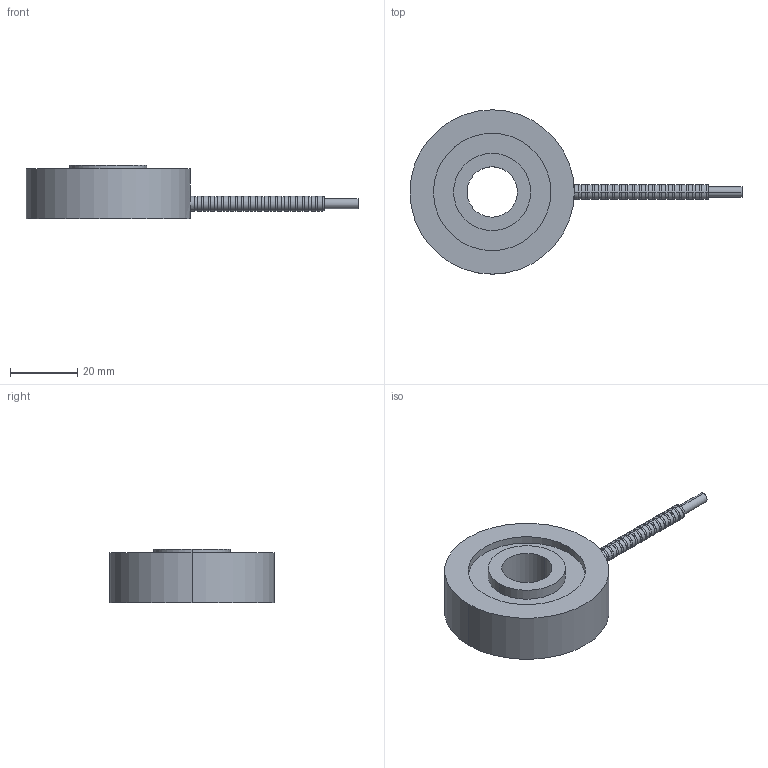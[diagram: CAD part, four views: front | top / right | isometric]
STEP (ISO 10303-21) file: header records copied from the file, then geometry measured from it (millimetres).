
FILE_DESCRIPTION(('STEP AP203'),'1');
FILE_NAME('C:/TPO v2/SharedFS/Outgoing/burster_8438-6050-v010_hyajt4gyrbzdg3jlm7vdflhp.stp','2013-08-27T15:42:20',('TraceParts'),('TraceParts S.A.'),'XStep 1.0',' ',' ');
FILE_SCHEMA(('CONFIG_CONTROL_DESIGN'));
Length unit declared in the file: millimetre
Products named in the file (1): 1
Bounding box: 99 x 49 x 16 mm (x, y, z)
Volume: 23552.8 mm3; surface area: 7845.8 mm2
Topology: 1 solids, 1 shells, 165 faces, 337 edges, 217 vertices
Faces by surface type: cylinder 104, plane 49, cone 12
Entity records: 4500 total; most frequent: DIRECTION 873, CARTESIAN_POINT 781, ORIENTED_EDGE 662, AXIS2_PLACEMENT_3D 378, EDGE_CURVE 331, VERTEX_POINT 217, EDGE_LOOP 216, CIRCLE 212
